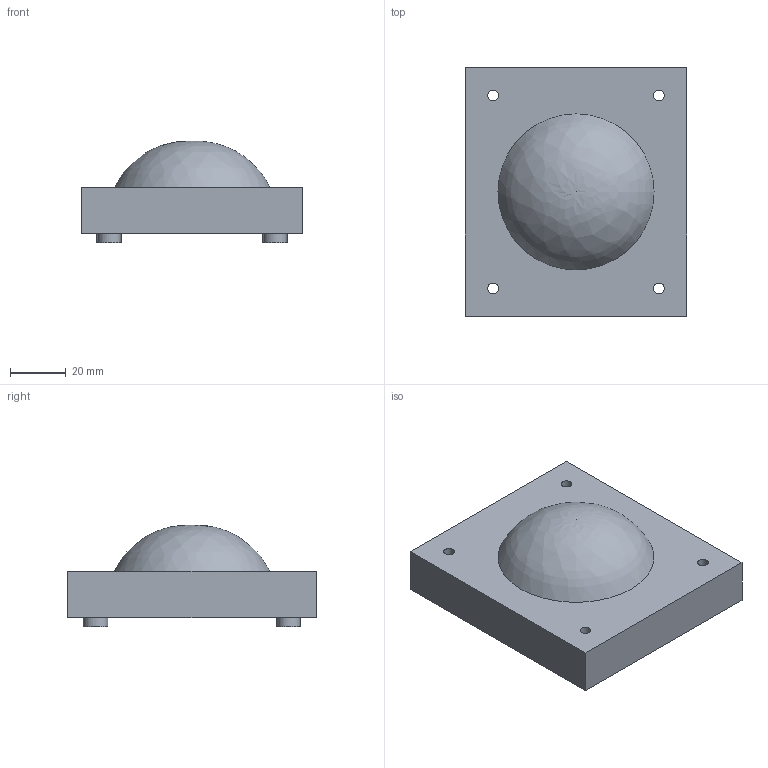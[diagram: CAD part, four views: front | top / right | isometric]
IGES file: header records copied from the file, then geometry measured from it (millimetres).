
Global section: file name: No Iges File Name specified; native system: AutoDesk Inventor R6.0; preprocessor: AutoDesk Inventor Iges Exporter R6.0; author: No Author specified; organization: No Organization specified; date: 20051229.152930; units: inch
Bounding box: 79.25 x 88.9 x 36.37 mm (x, y, z)
Surface area: 23439.8 mm2 (no closed solid volume)
Topology: 0 solids, 0 shells, 29 faces, 120 edges, 111 vertices
Faces by surface type: plane 20, bspline 5, revolution 4
